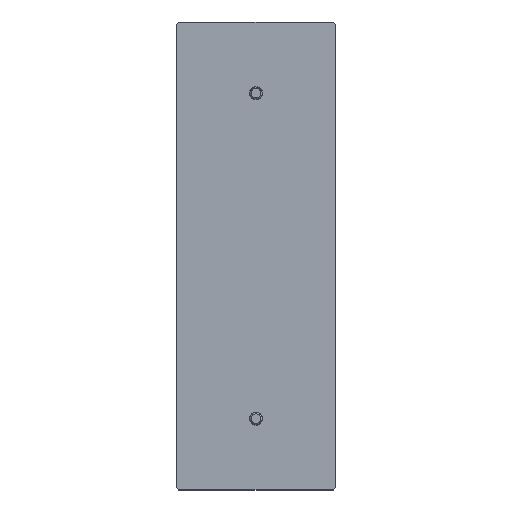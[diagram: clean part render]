
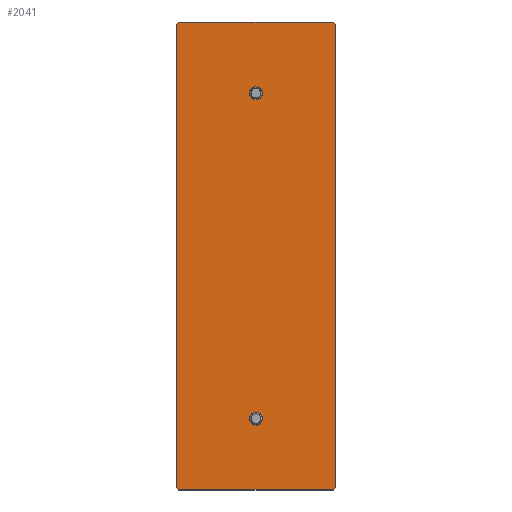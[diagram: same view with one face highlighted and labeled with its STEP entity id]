
A CAD part, top view. The second image highlights one B-rep face of the part: STEP entity #2041.
In plain terms, the highlighted planar face has unit normal (0, 0, 1).
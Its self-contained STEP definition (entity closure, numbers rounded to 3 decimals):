
#137=LINE('',#3194,#279);
#141=LINE('',#3201,#283);
#149=LINE('',#3222,#291);
#151=LINE('',#3226,#293);
#153=LINE('',#3232,#295);
#156=LINE('',#3237,#298);
#175=LINE('',#3508,#317);
#176=LINE('',#3510,#318);
#279=VECTOR('',#2545,10.);
#283=VECTOR('',#2551,10.);
#291=VECTOR('',#2567,10.);
#293=VECTOR('',#2571,10.);
#295=VECTOR('',#2577,10.);
#298=VECTOR('',#2582,10.);
#317=VECTOR('',#2695,10.);
#318=VECTOR('',#2698,10.);
#456=FACE_BOUND('',#653,.T.);
#457=FACE_BOUND('',#654,.T.);
#506=FACE_OUTER_BOUND('',#652,.T.);
#652=EDGE_LOOP('',(#1513,#1514,#1515,#1516,#1517,#1518,#1519,#1520));
#653=EDGE_LOOP('',(#1521));
#654=EDGE_LOOP('',(#1522));
#764=CIRCLE('',#2257,3.2);
#768=CIRCLE('',#2264,3.2);
#871=VERTEX_POINT('',#3171);
#875=VERTEX_POINT('',#3184);
#878=VERTEX_POINT('',#3191);
#879=VERTEX_POINT('',#3193);
#881=VERTEX_POINT('',#3199);
#889=VERTEX_POINT('',#3219);
#890=VERTEX_POINT('',#3221);
#891=VERTEX_POINT('',#3225);
#893=VERTEX_POINT('',#3231);
#894=VERTEX_POINT('',#3235);
#1053=EDGE_CURVE('',#871,#871,#764,.T.);
#1059=EDGE_CURVE('',#875,#875,#768,.T.);
#1062=EDGE_CURVE('',#878,#879,#137,.T.);
#1066=EDGE_CURVE('',#878,#881,#141,.T.);
#1076=EDGE_CURVE('',#889,#890,#149,.T.);
#1078=EDGE_CURVE('',#891,#890,#151,.T.);
#1081=EDGE_CURVE('',#891,#893,#153,.T.);
#1084=EDGE_CURVE('',#894,#881,#156,.T.);
#1137=EDGE_CURVE('',#894,#893,#175,.T.);
#1138=EDGE_CURVE('',#889,#879,#176,.T.);
#1513=ORIENTED_EDGE('',*,*,#1062,.F.);
#1514=ORIENTED_EDGE('',*,*,#1066,.T.);
#1515=ORIENTED_EDGE('',*,*,#1084,.F.);
#1516=ORIENTED_EDGE('',*,*,#1137,.T.);
#1517=ORIENTED_EDGE('',*,*,#1081,.F.);
#1518=ORIENTED_EDGE('',*,*,#1078,.T.);
#1519=ORIENTED_EDGE('',*,*,#1076,.F.);
#1520=ORIENTED_EDGE('',*,*,#1138,.T.);
#1521=ORIENTED_EDGE('',*,*,#1053,.T.);
#1522=ORIENTED_EDGE('',*,*,#1059,.T.);
#1941=PLANE('',#2323);
#2041=ADVANCED_FACE('',(#506,#456,#457),#1941,.T.);
#2257=AXIS2_PLACEMENT_3D('',#3173,#2523,#2524);
#2264=AXIS2_PLACEMENT_3D('',#3186,#2539,#2540);
#2323=AXIS2_PLACEMENT_3D('',#3511,#2699,#2700);
#2523=DIRECTION('center_axis',(0.,0.,-1.));
#2524=DIRECTION('ref_axis',(-1.,0.,0.));
#2539=DIRECTION('center_axis',(0.,0.,-1.));
#2540=DIRECTION('ref_axis',(-1.,0.,0.));
#2545=DIRECTION('',(0.707,0.707,0.));
#2551=DIRECTION('',(0.,-1.,0.));
#2567=DIRECTION('',(0.707,-0.707,0.));
#2571=DIRECTION('',(0.,1.,0.));
#2577=DIRECTION('',(-0.707,-0.707,0.));
#2582=DIRECTION('',(-0.707,0.707,0.));
#2695=DIRECTION('',(1.,0.,0.));
#2698=DIRECTION('',(-1.,0.,0.));
#2699=DIRECTION('center_axis',(0.,0.,1.));
#2700=DIRECTION('ref_axis',(1.,0.,0.));
#3171=CARTESIAN_POINT('',(-91.8,80.,0.));
#3173=CARTESIAN_POINT('Origin',(-95.,80.,0.));
#3184=CARTESIAN_POINT('',(-91.8,-80.,0.));
#3186=CARTESIAN_POINT('Origin',(-95.,-80.,0.));
#3191=CARTESIAN_POINT('',(-134.,114.,0.));
#3193=CARTESIAN_POINT('',(-133.,115.,0.));
#3194=CARTESIAN_POINT('',(-152.5,95.5,0.));
#3199=CARTESIAN_POINT('',(-134.,-114.,0.));
#3201=CARTESIAN_POINT('',(-134.,115.,0.));
#3219=CARTESIAN_POINT('',(-57.,115.,0.));
#3221=CARTESIAN_POINT('',(-56.,114.,0.));
#3222=CARTESIAN_POINT('',(-37.5,95.5,0.));
#3225=CARTESIAN_POINT('',(-56.,-114.,0.));
#3226=CARTESIAN_POINT('',(-56.,-115.,0.));
#3231=CARTESIAN_POINT('',(-57.,-115.,0.));
#3232=CARTESIAN_POINT('',(-37.5,-95.5,0.));
#3235=CARTESIAN_POINT('',(-133.,-115.,0.));
#3237=CARTESIAN_POINT('',(-152.5,-95.5,0.));
#3508=CARTESIAN_POINT('',(-134.,-115.,0.));
#3510=CARTESIAN_POINT('',(-56.,115.,0.));
#3511=CARTESIAN_POINT('Origin',(-95.,0.,0.));
